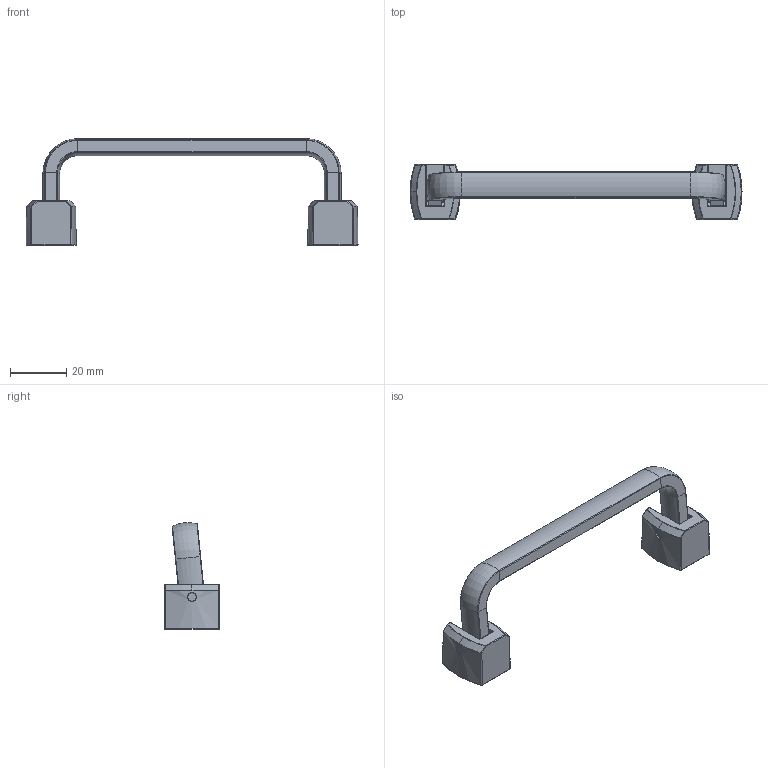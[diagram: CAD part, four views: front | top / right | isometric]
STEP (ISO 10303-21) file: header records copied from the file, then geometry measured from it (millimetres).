
FILE_DESCRIPTION (( 'STEP AP203' ), '1' );
FILE_NAME ('XG01-101-2.STEP', '2025-04-03T08:29:52', ( '微软用户' ), ( '微软中国' ), 'SwSTEP 2.0', 'SolidWorks 2024', '' );
FILE_SCHEMA (( 'CONFIG_CONTROL_DESIGN' ));
Length unit declared in the file: millimetre
Products named in the file (1): XG01-101-2
Bounding box: 117.84 x 19.79 x 37.92 mm (x, y, z)
Volume: 15253 mm3; surface area: 8871 mm2
Topology: 7 solids, 7 shells, 752 faces, 2078 edges, 1337 vertices
Faces by surface type: plane 546, cylinder 90, torus 40, bspline 38, cone 28, sphere 10
Entity records: 29889 total; most frequent: CARTESIAN_POINT 10592, ORIENTED_EDGE 4134, DIRECTION 3948, EDGE_CURVE 2067, VECTOR 1344, LINE 1344, VERTEX_POINT 1336, AXIS2_PLACEMENT_3D 1302
